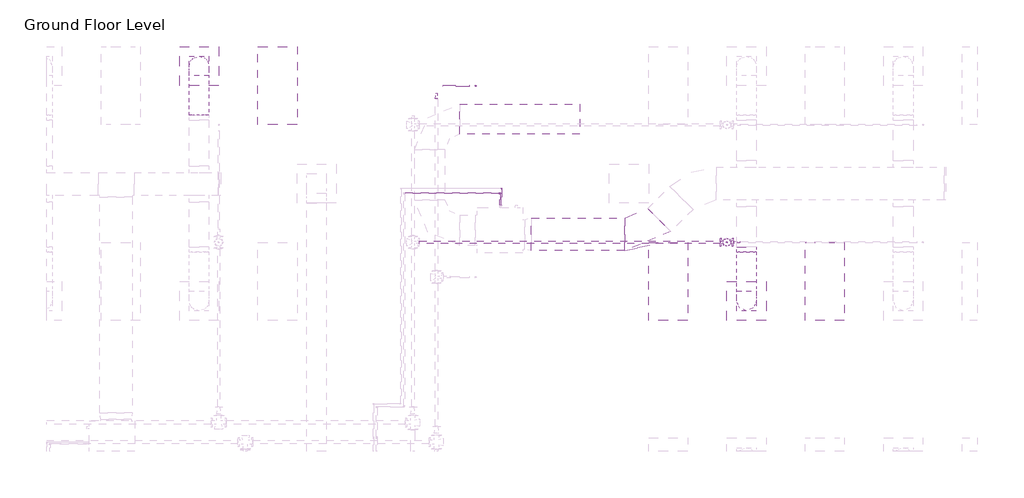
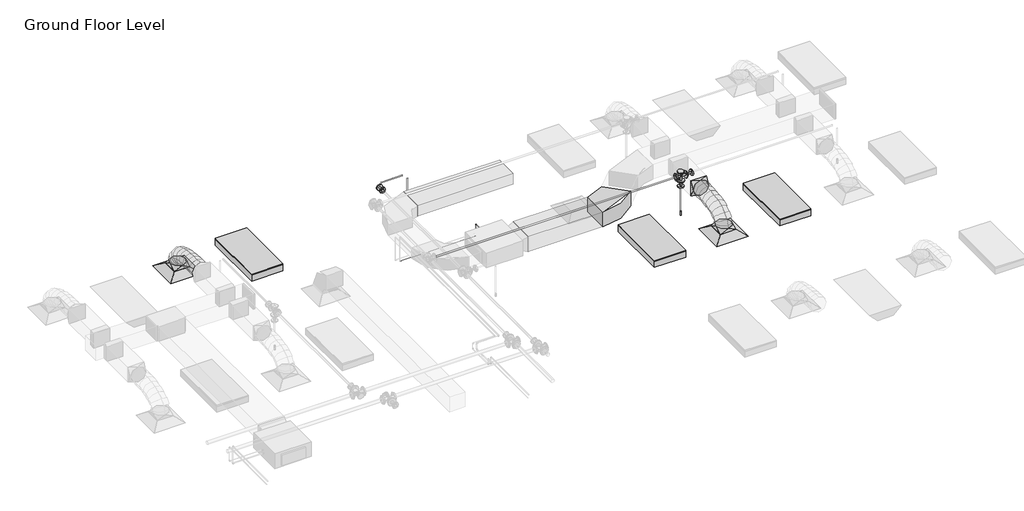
# One storey, part 72 of 74: 9 pipe segments, 8 pipe fittings, 4 duct fittings, 4 duct segments, 3 light fixtures, 2 air terminals, 2 fire suppression terminals.
"""IFC4 building model written with IfcOpenShell, lengths in millimetres."""

from ifc_helpers import new_model, si_unit, point, frame, frame_2d, origin, place, context, project, spatial, polyline, circle_curve, ellipse_curve, trimmed, segment, composite_curve, outline, extrude, transform, mapped, element, save
from ifc_brep_helpers import plane_surface, cylinder_surface, advanced_brep
from components import m_return_diffuser_600_x_600_face_300_x_300_connection_ff221211, m_rectangular_elbow_radius_1_5_w_acc56c25, m_rectangular_to_round_transition_angle_45_degree_641efff0, m_sprinkler_dry_pendent_hosted_15_mm_dry_pendent_9bda8e11, m_sprinkler_pendent_15_mm_pendent_06fcbd8e, m_troffer_light_parabolic_rectangular1_0600x1200mm_4_lamp_86473d4a, m_elbow_generic_standard_a088f956, m_elbow_generic_standard_2a704253, m_reducer_flanged_cs_class_150_standard_ccf252ad, m_tee_round_base_flanged_cs_class_150_standard_7e5987a1

model = new_model("IFC4")

# Units and contexts
model_context = context("Model", 3, world=origin())
ifc_project = project(units=[si_unit("LENGTHUNIT", "METRE", prefix="MILLI")], contexts=[model_context])

# Site, building, storey
site = spatial("IfcSite", under=ifc_project)
building = spatial("IfcBuilding", under=site)
storey = spatial("IfcBuildingStorey", under=building, Name="Ground Floor Level", Elevation=900.0)

# Air terminals
placement = place(None, origin())
m_return_diffuser_600_x_600_face_300_x_300_connection_shape = m_return_diffuser_600_x_600_face_300_x_300_connection_ff221211(model_context)
element("IfcAirTerminal", 1, ObjectType="M_Supply Diffuser : 600 x 600 Face 300 x 300 Connection", at=placement, inside=storey, context=model_context, shape_type="MappedRepresentation", body=[
    mapped(m_return_diffuser_600_x_600_face_300_x_300_connection_shape, transform((2362.7672395, 20535.2153534, 3650.0), x_axis=(1.0, 0.0, 0.0), y_axis=(0.0, 1.0, 0.0), z_axis=(0.0, 0.0, 1.0))),
])
element("IfcAirTerminal", 2, ObjectType="M_Supply Diffuser : 600 x 600 Face 300 x 300 Connection", at=placement, inside=storey, context=model_context, shape_type="MappedRepresentation", body=[
    mapped(m_return_diffuser_600_x_600_face_300_x_300_connection_shape, transform((10742.7672395, 16935.2153534, 3650.0), x_axis=(1.0, 0.0, 0.0), y_axis=(0.0, 1.0, 0.0), z_axis=(0.0, 0.0, 1.0))),
])

# Duct fittings
m_rectangular_elbow_radius_1_5_w_shape = m_rectangular_elbow_radius_1_5_w_acc56c25(model_context)
element("IfcDuctFitting", 3, ObjectType="M_Rectangular Elbow - Radius : 1.5 W", at=placement, inside=storey, context=model_context, shape_type="MappedRepresentation", body=[
    mapped(m_rectangular_elbow_radius_1_5_w_shape, transform((9187.6927358, 17956.1779527, 4100.0047224), x_axis=(0.9999999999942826, 0.0, -3.3815582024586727e-06), y_axis=(-9.063610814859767e-12, 0.9999999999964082, -2.680306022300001e-06), z_axis=(3.3815582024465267e-06, 2.6803060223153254e-06, 0.9999999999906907))),
])
m_rectangular_to_round_transition_angle_45_degree_shape = m_rectangular_to_round_transition_angle_45_degree_641efff0(model_context)
element("IfcDuctFitting", 4, ObjectType="M_Rectangular to Round Transition - Angle : 45 Degree", at=placement, inside=storey, context=model_context, shape_type="MappedRepresentation", body=[
    mapped(m_rectangular_to_round_transition_angle_45_degree_shape, transform((2362.7672395, 20535.2153534, 3751.6), x_axis=(0.0, 0.0, 1.0), y_axis=(-1.0, 0.0, 0.0), z_axis=(0.0, -1.0, 0.0))),
])
element("IfcDuctFitting", 5, ObjectType="M_Rectangular to Round Transition - Angle : 45 Degree", at=placement, inside=storey, context=model_context, shape_type="MappedRepresentation", body=[
    mapped(m_rectangular_to_round_transition_angle_45_degree_shape, transform((10742.7672395, 16935.2153534, 3751.6), x_axis=(0.0, 0.0, 1.0), y_axis=(-1.0, 0.0, 0.0), z_axis=(0.0, -1.0, 0.0))),
])
element("IfcDuctFitting", 6, ObjectType="M_Rectangular to Round Transition - Angle : 45 Degree", at=placement, inside=storey, context=model_context, shape_type="MappedRepresentation", body=[
    mapped(m_rectangular_to_round_transition_angle_45_degree_shape, transform((10742.7672395, 17762.5512847, 4100.0), x_axis=(0.0, -1.0, 0.0), y_axis=(1.0, 0.0, 0.0), z_axis=(0.0, 0.0, 1.0))),
])

# Duct segments
element("IfcDuctSegment", 7, ObjectType="Flex - Round", at=placement, inside=storey, context=model_context, shape_type="AdvancedBrep", body=[
    advanced_brep(
    [(2512.7672395, 20535.2153534, 3826.6), (2362.7672395, 20385.2153534, 3826.6), (2212.7672395, 20535.2153534, 3826.6), (2362.7672395, 20685.2153534, 3826.6), (2512.7672395, 20535.2153534, 3857.937778), (2362.7672395, 20385.2153534, 3832.2944744), (2212.7672395, 20535.2153534, 3857.937778), (2362.7672395, 20685.2153534, 3883.5810816), (2512.7672395, 20518.1993769, 3906.2506017), (2362.7672395, 20384.4614978, 3834.4348684), (2212.7672395, 20518.1993769, 3906.2506017), (2362.7672395, 20651.937256, 3978.0663351), (2512.7672395, 20471.0153769, 3968.7112406), (2362.7672395, 20366.8097489, 3857.8016772), (2212.7672395, 20471.0153769, 3968.7112406), (2362.7672395, 20575.2210049, 4079.6208039), (2512.7672395, 20399.4592477, 4016.0697935), (2362.7672395, 20330.5256195, 3881.8158865), (2212.7672395, 20399.4592477, 4016.0697935), (2362.7672395, 20468.3928758, 4150.3237004), (2512.7672395, 20309.3268835, 4050.4141374), (2362.7672395, 20265.7665876, 3906.4918893), (2212.7672395, 20309.3268835, 4050.4141374), (2362.7672395, 20352.8871794, 4194.3363855), (2512.7672395, 20206.4141786, 4073.8321493), (2362.7672395, 20179.8536975, 3926.0415559), (2212.7672395, 20206.4141786, 4073.8321493), (2362.7672395, 20232.9746597, 4221.6227426), (2512.7672395, 20096.5170273, 4088.411706), (2362.7672395, 20081.3665099, 3939.1074046), (2212.7672395, 20096.5170273, 4088.411706), (2362.7672395, 20111.6675446, 4237.7160075), (2512.7672395, 19985.4313238, 4096.2406846), (2362.7672395, 19977.9262951, 3946.3975526), (2212.7672395, 19985.4313238, 4096.2406846), (2362.7672395, 19992.9363525, 4246.0838166), (2512.7672395, 19878.9529624, 4099.406962), (2362.7672395, 19876.2616453, 3949.4206879), (2212.7672395, 19878.9529624, 4099.406962), (2362.7672395, 19881.6442795, 4249.3932362), (2512.7672395, 19782.8778373, 4099.9984152), (2362.7672395, 19783.8012427, 4249.9955729), (2212.7672395, 19782.8778373, 4099.9984152), (2362.7672395, 19781.9544319, 3950.0012575)],
    [
        (0, 1, circle_curve(frame((2362.7672395, 20535.2153534, 3826.6), z_axis=(0.0, 0.0, -1.0), x_axis=(1.0, 0.0, 0.0)), 150.0)),
        (1, 2, circle_curve(frame((2362.7672395, 20535.2153534, 3826.6), z_axis=(0.0, 0.0, -1.0), x_axis=(1.0, 0.0, 0.0)), 150.0)),
        (2, 3, circle_curve(frame((2362.7672395, 20535.2153534, 3826.6), z_axis=(0.0, 0.0, -1.0), x_axis=(1.0, 0.0, 0.0)), 150.0)),
        (3, 0, circle_curve(frame((2362.7672395, 20535.2153534, 3826.6), z_axis=(0.0, 0.0, -1.0), x_axis=(1.0, 0.0, 0.0)), 150.0)),
        (0, 4),
        (4, 5, ellipse_curve(frame((2362.7672395, 20535.2153534, 3857.937778), z_axis=(0.0, 0.16851066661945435, -0.985699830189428), x_axis=(0.0, -0.985699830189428, -0.16851066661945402)), 152.1761447, 150.0)),
        (5, 1),
        (5, 6, ellipse_curve(frame((2362.7672395, 20535.2153534, 3857.937778), z_axis=(0.0, 0.16851066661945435, -0.985699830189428), x_axis=(0.0, -0.985699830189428, -0.16851066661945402)), 152.1761447, 150.0)),
        (6, 2),
        (6, 7, ellipse_curve(frame((2362.7672395, 20535.2153534, 3857.937778), z_axis=(0.0, 0.16851066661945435, -0.985699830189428), x_axis=(0.0, -0.985699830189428, -0.16851066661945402)), 152.1761447, 150.0)),
        (7, 3),
        (7, 4, ellipse_curve(frame((2362.7672395, 20535.2153534, 3857.937778), z_axis=(0.0, 0.16851066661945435, -0.985699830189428), x_axis=(0.0, -0.985699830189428, -0.16851066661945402)), 152.1761447, 150.0)),
        (4, 8),
        (8, 9, ellipse_curve(frame((2362.7672395, 20518.1993769, 3906.2506017), z_axis=(0.0, 0.4730936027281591, -0.8810121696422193), x_axis=(0.0, -0.8810121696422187, -0.4730936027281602)), 151.8002631, 150.0)),
        (9, 5),
        (9, 10, ellipse_curve(frame((2362.7672395, 20518.1993769, 3906.2506017), z_axis=(0.0, 0.4730936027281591, -0.8810121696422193), x_axis=(0.0, -0.8810121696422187, -0.4730936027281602)), 151.8002631, 150.0)),
        (10, 6),
        (10, 11, ellipse_curve(frame((2362.7672395, 20518.1993769, 3906.2506017), z_axis=(0.0, 0.4730936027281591, -0.8810121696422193), x_axis=(0.0, -0.8810121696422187, -0.4730936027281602)), 151.8002631, 150.0)),
        (11, 7),
        (11, 8, ellipse_curve(frame((2362.7672395, 20518.1993769, 3906.2506017), z_axis=(0.0, 0.4730936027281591, -0.8810121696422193), x_axis=(0.0, -0.8810121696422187, -0.4730936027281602)), 151.8002631, 150.0)),
        (8, 12),
        (12, 13, ellipse_curve(frame((2362.7672395, 20471.0153769, 3968.7112406), z_axis=(0.0, 0.7287895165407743, -0.6847377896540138), x_axis=(0.0, -0.6847377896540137, -0.7287895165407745)), 152.1832584, 150.0)),
        (13, 9),
        (13, 14, ellipse_curve(frame((2362.7672395, 20471.0153769, 3968.7112406), z_axis=(0.0, 0.7287895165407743, -0.6847377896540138), x_axis=(0.0, -0.6847377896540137, -0.7287895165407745)), 152.1832584, 150.0)),
        (14, 10),
        (14, 15, ellipse_curve(frame((2362.7672395, 20471.0153769, 3968.7112406), z_axis=(0.0, 0.7287895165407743, -0.6847377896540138), x_axis=(0.0, -0.6847377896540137, -0.7287895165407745)), 152.1832584, 150.0)),
        (15, 11),
        (15, 12, ellipse_curve(frame((2362.7672395, 20471.0153769, 3968.7112406), z_axis=(0.0, 0.7287895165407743, -0.6847377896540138), x_axis=(0.0, -0.6847377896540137, -0.7287895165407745)), 152.1832584, 150.0)),
        (12, 16),
        (16, 17, ellipse_curve(frame((2362.7672395, 20399.4592477, 4016.0697935), z_axis=(0.0, 0.8895873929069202, -0.4567650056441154), x_axis=(0.0, -0.4567650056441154, -0.8895873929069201)), 150.9170521, 150.0)),
        (17, 13),
        (17, 18, ellipse_curve(frame((2362.7672395, 20399.4592477, 4016.0697935), z_axis=(0.0, 0.8895873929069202, -0.4567650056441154), x_axis=(0.0, -0.4567650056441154, -0.8895873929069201)), 150.9170521, 150.0)),
        (18, 14),
        (18, 19, ellipse_curve(frame((2362.7672395, 20399.4592477, 4016.0697935), z_axis=(0.0, 0.8895873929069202, -0.4567650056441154), x_axis=(0.0, -0.4567650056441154, -0.8895873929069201)), 150.9170521, 150.0)),
        (19, 15),
        (19, 16, ellipse_curve(frame((2362.7672395, 20399.4592477, 4016.0697935), z_axis=(0.0, 0.8895873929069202, -0.4567650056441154), x_axis=(0.0, -0.4567650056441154, -0.8895873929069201)), 150.9170521, 150.0)),
        (16, 20),
        (20, 21, ellipse_curve(frame((2362.7672395, 20309.3268835, 4050.4141374), z_axis=(0.0, 0.9571212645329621, -0.2896875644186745), x_axis=(0.0, -0.28968756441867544, -0.9571212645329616)), 150.3699202, 150.0)),
        (21, 17),
        (21, 22, ellipse_curve(frame((2362.7672395, 20309.3268835, 4050.4141374), z_axis=(0.0, 0.9571212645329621, -0.2896875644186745), x_axis=(0.0, -0.28968756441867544, -0.9571212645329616)), 150.3699202, 150.0)),
        (22, 18),
        (22, 23, ellipse_curve(frame((2362.7672395, 20309.3268835, 4050.4141374), z_axis=(0.0, 0.9571212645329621, -0.2896875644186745), x_axis=(0.0, -0.28968756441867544, -0.9571212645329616)), 150.3699202, 150.0)),
        (23, 19),
        (23, 20, ellipse_curve(frame((2362.7672395, 20309.3268835, 4050.4141374), z_axis=(0.0, 0.9571212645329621, -0.2896875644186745), x_axis=(0.0, -0.28968756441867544, -0.9571212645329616)), 150.3699202, 150.0)),
        (20, 24),
        (24, 25, ellipse_curve(frame((2362.7672395, 20206.4141786, 4073.8321493), z_axis=(0.0, 0.9842318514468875, -0.17688318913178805), x_axis=(0.0, -0.17688318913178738, -0.9842318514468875)), 150.1583119, 150.0)),
        (25, 21),
        (25, 26, ellipse_curve(frame((2362.7672395, 20206.4141786, 4073.8321493), z_axis=(0.0, 0.9842318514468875, -0.17688318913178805), x_axis=(0.0, -0.17688318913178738, -0.9842318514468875)), 150.1583119, 150.0)),
        (26, 22),
        (26, 27, ellipse_curve(frame((2362.7672395, 20206.4141786, 4073.8321493), z_axis=(0.0, 0.9842318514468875, -0.17688318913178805), x_axis=(0.0, -0.17688318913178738, -0.9842318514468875)), 150.1583119, 150.0)),
        (27, 23),
        (27, 24, ellipse_curve(frame((2362.7672395, 20206.4141786, 4073.8321493), z_axis=(0.0, 0.9842318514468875, -0.17688318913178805), x_axis=(0.0, -0.17688318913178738, -0.9842318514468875)), 150.1583119, 150.0)),
        (24, 28),
        (28, 29, ellipse_curve(frame((2362.7672395, 20096.5170273, 4088.411706), z_axis=(0.0, 0.9948909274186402, -0.10095564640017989), x_axis=(0.0, -0.10095564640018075, -0.99489092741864)), 150.0710252, 150.0)),
        (29, 25),
        (29, 30, ellipse_curve(frame((2362.7672395, 20096.5170273, 4088.411706), z_axis=(0.0, 0.9948909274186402, -0.10095564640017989), x_axis=(0.0, -0.10095564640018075, -0.99489092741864)), 150.0710252, 150.0)),
        (30, 26),
        (30, 31, ellipse_curve(frame((2362.7672395, 20096.5170273, 4088.411706), z_axis=(0.0, 0.9948909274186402, -0.10095564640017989), x_axis=(0.0, -0.10095564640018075, -0.99489092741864)), 150.0710252, 150.0)),
        (31, 27),
        (31, 28, ellipse_curve(frame((2362.7672395, 20096.5170273, 4088.411706), z_axis=(0.0, 0.9948909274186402, -0.10095564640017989), x_axis=(0.0, -0.10095564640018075, -0.99489092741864)), 150.0710252, 150.0)),
        (28, 32),
        (32, 33, ellipse_curve(frame((2362.7672395, 19985.4313238, 4096.2406846), z_axis=(0.0, 0.9987480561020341, -0.05002319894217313), x_axis=(0.0, -0.050023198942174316, -0.9987480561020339)), 150.0309623, 150.0)),
        (33, 29),
        (33, 34, ellipse_curve(frame((2362.7672395, 19985.4313238, 4096.2406846), z_axis=(0.0, 0.9987480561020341, -0.05002319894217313), x_axis=(0.0, -0.050023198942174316, -0.9987480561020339)), 150.0309623, 150.0)),
        (34, 30),
        (34, 35, ellipse_curve(frame((2362.7672395, 19985.4313238, 4096.2406846), z_axis=(0.0, 0.9987480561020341, -0.05002319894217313), x_axis=(0.0, -0.050023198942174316, -0.9987480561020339)), 150.0309623, 150.0)),
        (35, 31),
        (35, 32, ellipse_curve(frame((2362.7672395, 19985.4313238, 4096.2406846), z_axis=(0.0, 0.9987480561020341, -0.05002319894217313), x_axis=(0.0, -0.050023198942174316, -0.9987480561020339)), 150.0309623, 150.0)),
        (32, 36),
        (36, 37, ellipse_curve(frame((2362.7672395, 19878.9529624, 4099.406962), z_axis=(0.0, 0.99983904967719, -0.017940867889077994), x_axis=(0.0, -0.017940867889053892, -0.9998390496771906)), 150.0104184, 150.0)),
        (37, 33),
        (37, 38, ellipse_curve(frame((2362.7672395, 19878.9529624, 4099.406962), z_axis=(0.0, 0.99983904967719, -0.017940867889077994), x_axis=(0.0, -0.017940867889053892, -0.9998390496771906)), 150.0104184, 150.0)),
        (38, 34),
        (38, 39, ellipse_curve(frame((2362.7672395, 19878.9529624, 4099.406962), z_axis=(0.0, 0.99983904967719, -0.017940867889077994), x_axis=(0.0, -0.017940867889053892, -0.9998390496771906)), 150.0104184, 150.0)),
        (39, 35),
        (39, 36, ellipse_curve(frame((2362.7672395, 19878.9529624, 4099.406962), z_axis=(0.0, 0.99983904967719, -0.017940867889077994), x_axis=(0.0, -0.017940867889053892, -0.9998390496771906)), 150.0104184, 150.0)),
        (40, 41, circle_curve(frame((2362.7672395, 19782.8778373, 4099.9984152), z_axis=(0.0, -0.9999810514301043, 0.006156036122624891), x_axis=(1.0, 0.0, 0.0)), 150.0)),
        (41, 42, circle_curve(frame((2362.7672395, 19782.8778373, 4099.9984152), z_axis=(0.0, -0.9999810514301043, 0.006156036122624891), x_axis=(1.0, 0.0, 0.0)), 150.0)),
        (42, 43, circle_curve(frame((2362.7672395, 19782.8778373, 4099.9984152), z_axis=(0.0, -0.9999810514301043, 0.006156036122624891), x_axis=(1.0, 0.0, 0.0)), 150.0)),
        (43, 40, circle_curve(frame((2362.7672395, 19782.8778373, 4099.9984152), z_axis=(0.0, -0.9999810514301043, 0.006156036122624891), x_axis=(1.0, 0.0, 0.0)), 150.0)),
        (36, 40),
        (43, 37),
        (42, 38),
        (41, 39),
    ],
    [
        plane_surface(frame((2362.7672395, 20385.2153534, 3826.6), z_axis=(0.0, 0.0, -1.0), x_axis=(1.0, 0.0, 0.0))),
        cylinder_surface(frame((2362.7672395, 20535.2153534, 3826.6), z_axis=(0.0, 0.0, -1.0), x_axis=(1.0, 0.0, 0.0)), 150.0),
        cylinder_surface(frame((2362.7672395, 20535.2153534, 3857.937778), z_axis=(0.0, 0.3322018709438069, -0.9432083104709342), x_axis=(1.0, 0.0, 0.0)), 150.0),
        cylinder_surface(frame((2362.7672395, 20518.1993769, 3906.2506017), z_axis=(0.0, 0.6027641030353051, -0.7979194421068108), x_axis=(1.0, 0.0, 0.0)), 150.0),
        cylinder_surface(frame((2362.7672395, 20471.0153769, 3968.7112406), z_axis=(0.0, 0.8339041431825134, -0.5519093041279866), x_axis=(1.0, 0.0, 0.0)), 150.0),
        cylinder_surface(frame((2362.7672395, 20399.4592477, 4016.0697935), z_axis=(0.0, 0.9344594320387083, -0.3560696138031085), x_axis=(1.0, 0.0, 0.0)), 150.0),
        cylinder_surface(frame((2362.7672395, 20309.3268835, 4050.4141374), z_axis=(0.0, 0.9750739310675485, -0.22188021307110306), x_axis=(1.0, 0.0, 0.0)), 150.0),
        cylinder_surface(frame((2362.7672395, 20206.4141786, 4073.8321493), z_axis=(0.0, 0.9913144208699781, -0.13151318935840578), x_axis=(1.0, 0.0, 0.0)), 150.0),
        cylinder_surface(frame((2362.7672395, 20096.5170273, 4088.411706), z_axis=(0.0, 0.9975257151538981, -0.07030254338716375), x_axis=(1.0, 0.0, 0.0)), 150.0),
        cylinder_surface(frame((2362.7672395, 19985.4313238, 4096.2406846), z_axis=(0.0, 0.9995581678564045, -0.029723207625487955), x_axis=(1.0, 0.0, 0.0)), 150.0),
        plane_surface(frame((2362.7672395, 19781.9544319, 3950.0012575), z_axis=(0.0, -0.9999810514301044, 0.006156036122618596), x_axis=(1.0, 0.0, 0.0))),
        cylinder_surface(frame((2362.7672395, 19878.9529624, 4099.406962), z_axis=(0.0, 0.9999810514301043, -0.006156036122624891), x_axis=(1.0, 0.0, 0.0)), 150.0),
    ],
    [
        (0, [[1, 2, 3, 4]]),
        (1, [[-1, 5, 6, 7]]),
        (1, [[-2, -7, 8, 9]]),
        (1, [[-3, -9, 10, 11]]),
        (1, [[-4, -11, 12, -5]]),
        (2, [[-6, 13, 14, 15]]),
        (2, [[-8, -15, 16, 17]]),
        (2, [[-10, -17, 18, 19]]),
        (2, [[-12, -19, 20, -13]]),
        (3, [[-14, 21, 22, 23]]),
        (3, [[-16, -23, 24, 25]]),
        (3, [[-18, -25, 26, 27]]),
        (3, [[-20, -27, 28, -21]]),
        (4, [[-22, 29, 30, 31]]),
        (4, [[-24, -31, 32, 33]]),
        (4, [[-26, -33, 34, 35]]),
        (4, [[-28, -35, 36, -29]]),
        (5, [[-30, 37, 38, 39]]),
        (5, [[-32, -39, 40, 41]]),
        (5, [[-34, -41, 42, 43]]),
        (5, [[-36, -43, 44, -37]]),
        (6, [[-38, 45, 46, 47]]),
        (6, [[-40, -47, 48, 49]]),
        (6, [[-42, -49, 50, 51]]),
        (6, [[-44, -51, 52, -45]]),
        (7, [[-46, 53, 54, 55]]),
        (7, [[-48, -55, 56, 57]]),
        (7, [[-50, -57, 58, 59]]),
        (7, [[-52, -59, 60, -53]]),
        (8, [[-54, 61, 62, 63]]),
        (8, [[-56, -63, 64, 65]]),
        (8, [[-58, -65, 66, 67]]),
        (8, [[-60, -67, 68, -61]]),
        (9, [[-62, 69, 70, 71]]),
        (9, [[-64, -71, 72, 73]]),
        (9, [[-66, -73, 74, 75]]),
        (9, [[-68, -75, 76, -69]]),
        (10, [[77, 78, 79, 80]]),
        (11, [[-70, 81, -80, 82]]),
        (11, [[-72, -82, -79, 83]]),
        (11, [[-74, -83, -78, 84]]),
        (11, [[-76, -84, -77, -81]]),
    ],
),
])
element("IfcDuctSegment", 8, ObjectType="Flex - Round", at=placement, inside=storey, context=model_context, shape_type="AdvancedBrep", body=[
    advanced_brep(
    [(10892.7672395, 16935.2153534, 3826.6), (10742.7672395, 16785.2153534, 3826.6), (10592.7672395, 16935.2153534, 3826.6), (10742.7672395, 17085.2153534, 3826.6), (10892.7672395, 16935.2153534, 3857.9377114), (10742.7672395, 16785.2153534, 3883.5809337), (10592.7672395, 16935.2153534, 3857.9377114), (10742.7672395, 17085.2153534, 3832.2944892), (10892.7672395, 16952.2312859, 3906.2505728), (10742.7672395, 16818.493307, 3978.0660967), (10592.7672395, 16952.2312859, 3906.2505728), (10742.7672395, 17085.9692649, 3834.435049), (10892.7672395, 16999.4151663, 3968.7113131), (10742.7672395, 16895.209267, 4079.6206026), (10592.7672395, 16999.4151663, 3968.7113131), (10742.7672395, 17103.6210655, 3857.8020236), (10892.7672395, 17070.9711184, 4016.0700639), (10742.7672395, 17002.0370628, 4150.3237489), (10592.7672395, 17070.9711184, 4016.0700639), (10742.7672395, 17139.9051741, 3881.8163788), (10892.7672395, 17161.1032664, 4050.4146682), (10742.7672395, 17117.5425033, 4194.3367758), (10592.7672395, 17161.1032664, 4050.4146682), (10742.7672395, 17204.6640296, 3906.4925606), (10892.7672395, 17264.0157343, 4073.8329691), (10742.7672395, 17237.4548103, 4221.6234841), (10592.7672395, 17264.0157343, 4073.8329691), (10742.7672395, 17290.5766583, 3926.0424542), (10892.7672395, 17373.912646, 4088.4128097), (10742.7672395, 17358.7617437, 4237.7170733), (10592.7672395, 17373.912646, 4088.4128097), (10742.7672395, 17389.0635483, 3939.1085462), (10892.7672395, 17484.9981256, 4096.242033), (10742.7672395, 17477.4927975, 4246.085151), (10592.7672395, 17484.9981256, 4096.242033), (10742.7672395, 17492.5034538, 3946.398915), (10892.7672395, 17591.4762972, 4099.4084821), (10742.7672395, 17588.7848041, 4249.394754), (10592.7672395, 17591.4762972, 4099.4084821), (10742.7672395, 17594.1677903, 3949.4222102), (10892.7672395, 17687.5512847, 4100.0), (10742.7672395, 17688.4747925, 3950.0028429), (10592.7672395, 17687.5512847, 4100.0), (10742.7672395, 17686.6277768, 4249.9971571)],
    [
        (0, 1, circle_curve(frame((10742.7672395, 16935.2153534, 3826.6), z_axis=(0.0, 0.0, -1.0), x_axis=(1.0, 0.0, 0.0)), 150.0)),
        (1, 2, circle_curve(frame((10742.7672395, 16935.2153534, 3826.6), z_axis=(0.0, 0.0, -1.0), x_axis=(1.0, 0.0, 0.0)), 150.0)),
        (2, 3, circle_curve(frame((10742.7672395, 16935.2153534, 3826.6), z_axis=(0.0, 0.0, -1.0), x_axis=(1.0, 0.0, 0.0)), 150.0)),
        (3, 0, circle_curve(frame((10742.7672395, 16935.2153534, 3826.6), z_axis=(0.0, 0.0, -1.0), x_axis=(1.0, 0.0, 0.0)), 150.0)),
        (0, 4),
        (4, 5, ellipse_curve(frame((10742.7672395, 16935.2153534, 3857.9377114), z_axis=(0.0, -0.16851014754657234, -0.9856999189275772), x_axis=(0.0, 0.9856999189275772, -0.1685101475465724)), 152.176131, 150.0)),
        (5, 1),
        (5, 6, ellipse_curve(frame((10742.7672395, 16935.2153534, 3857.9377114), z_axis=(0.0, -0.16851014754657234, -0.9856999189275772), x_axis=(0.0, 0.9856999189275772, -0.1685101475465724)), 152.176131, 150.0)),
        (6, 2),
        (6, 7, ellipse_curve(frame((10742.7672395, 16935.2153534, 3857.9377114), z_axis=(0.0, -0.16851014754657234, -0.9856999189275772), x_axis=(0.0, 0.9856999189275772, -0.1685101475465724)), 152.176131, 150.0)),
        (7, 3),
        (7, 4, ellipse_curve(frame((10742.7672395, 16935.2153534, 3857.9377114), z_axis=(0.0, -0.16851014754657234, -0.9856999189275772), x_axis=(0.0, 0.9856999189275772, -0.1685101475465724)), 152.176131, 150.0)),
        (4, 8),
        (8, 9, ellipse_curve(frame((10742.7672395, 16952.2312859, 3906.2505728), z_axis=(0.0, -0.47309225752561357, -0.8810128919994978), x_axis=(0.0, 0.8810128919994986, -0.47309225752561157)), 151.8002519, 150.0)),
        (9, 5),
        (9, 10, ellipse_curve(frame((10742.7672395, 16952.2312859, 3906.2505728), z_axis=(0.0, -0.47309225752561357, -0.8810128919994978), x_axis=(0.0, 0.8810128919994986, -0.47309225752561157)), 151.8002519, 150.0)),
        (10, 6),
        (10, 11, ellipse_curve(frame((10742.7672395, 16952.2312859, 3906.2505728), z_axis=(0.0, -0.47309225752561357, -0.8810128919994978), x_axis=(0.0, 0.8810128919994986, -0.47309225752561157)), 151.8002519, 150.0)),
        (11, 7),
        (11, 8, ellipse_curve(frame((10742.7672395, 16952.2312859, 3906.2505728), z_axis=(0.0, -0.47309225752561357, -0.8810128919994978), x_axis=(0.0, 0.8810128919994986, -0.47309225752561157)), 151.8002519, 150.0)),
        (8, 12),
        (12, 13, ellipse_curve(frame((10742.7672395, 16999.4151663, 3968.7113131), z_axis=(0.0, -0.7287877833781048, -0.6847396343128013), x_axis=(0.0, 0.6847396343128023, -0.7287877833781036)), 152.1832446, 150.0)),
        (13, 9),
        (13, 14, ellipse_curve(frame((10742.7672395, 16999.4151663, 3968.7113131), z_axis=(0.0, -0.7287877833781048, -0.6847396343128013), x_axis=(0.0, 0.6847396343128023, -0.7287877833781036)), 152.1832446, 150.0)),
        (14, 10),
        (14, 15, ellipse_curve(frame((10742.7672395, 16999.4151663, 3968.7113131), z_axis=(0.0, -0.7287877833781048, -0.6847396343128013), x_axis=(0.0, 0.6847396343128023, -0.7287877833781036)), 152.1832446, 150.0)),
        (15, 11),
        (15, 12, ellipse_curve(frame((10742.7672395, 16999.4151663, 3968.7113131), z_axis=(0.0, -0.7287877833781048, -0.6847396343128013), x_axis=(0.0, 0.6847396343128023, -0.7287877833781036)), 152.1832446, 150.0)),
        (12, 16),
        (16, 17, ellipse_curve(frame((10742.7672395, 17070.9711184, 4016.0700639), z_axis=(0.0, -0.8895859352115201, -0.45676784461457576), x_axis=(0.0, 0.45676784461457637, -0.8895859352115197)), 150.91705, 150.0)),
        (17, 13),
        (17, 18, ellipse_curve(frame((10742.7672395, 17070.9711184, 4016.0700639), z_axis=(0.0, -0.8895859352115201, -0.45676784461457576), x_axis=(0.0, 0.45676784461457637, -0.8895859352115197)), 150.91705, 150.0)),
        (18, 14),
        (18, 19, ellipse_curve(frame((10742.7672395, 17070.9711184, 4016.0700639), z_axis=(0.0, -0.8895859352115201, -0.45676784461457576), x_axis=(0.0, 0.45676784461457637, -0.8895859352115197)), 150.91705, 150.0)),
        (19, 15),
        (19, 16, ellipse_curve(frame((10742.7672395, 17070.9711184, 4016.0700639), z_axis=(0.0, -0.8895859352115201, -0.45676784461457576), x_axis=(0.0, 0.45676784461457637, -0.8895859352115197)), 150.91705, 150.0)),
        (16, 20),
        (20, 21, ellipse_curve(frame((10742.7672395, 17161.1032664, 4050.4146682), z_axis=(0.0, -0.9571203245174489, -0.2896906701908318), x_axis=(0.0, 0.28969067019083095, -0.9571203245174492)), 150.369921, 150.0)),
        (21, 17),
        (21, 22, ellipse_curve(frame((10742.7672395, 17161.1032664, 4050.4146682), z_axis=(0.0, -0.9571203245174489, -0.2896906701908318), x_axis=(0.0, 0.28969067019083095, -0.9571203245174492)), 150.369921, 150.0)),
        (22, 18),
        (22, 23, ellipse_curve(frame((10742.7672395, 17161.1032664, 4050.4146682), z_axis=(0.0, -0.9571203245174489, -0.2896906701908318), x_axis=(0.0, 0.28969067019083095, -0.9571203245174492)), 150.369921, 150.0)),
        (23, 19),
        (23, 20, ellipse_curve(frame((10742.7672395, 17161.1032664, 4050.4146682), z_axis=(0.0, -0.9571203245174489, -0.2896906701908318), x_axis=(0.0, 0.28969067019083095, -0.9571203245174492)), 150.369921, 150.0)),
        (20, 24),
        (24, 25, ellipse_curve(frame((10742.7672395, 17264.0157343, 4073.8329691), z_axis=(0.0, -0.9842313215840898, -0.17688613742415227), x_axis=(0.0, 0.17688613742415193, -0.9842313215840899)), 150.1583131, 150.0)),
        (25, 21),
        (25, 26, ellipse_curve(frame((10742.7672395, 17264.0157343, 4073.8329691), z_axis=(0.0, -0.9842313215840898, -0.17688613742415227), x_axis=(0.0, 0.17688613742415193, -0.9842313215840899)), 150.1583131, 150.0)),
        (26, 22),
        (26, 27, ellipse_curve(frame((10742.7672395, 17264.0157343, 4073.8329691), z_axis=(0.0, -0.9842313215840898, -0.17688613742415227), x_axis=(0.0, 0.17688613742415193, -0.9842313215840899)), 150.1583131, 150.0)),
        (27, 23),
        (27, 24, ellipse_curve(frame((10742.7672395, 17264.0157343, 4073.8329691), z_axis=(0.0, -0.9842313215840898, -0.17688613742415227), x_axis=(0.0, 0.17688613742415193, -0.9842313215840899)), 150.1583131, 150.0)),
        (24, 28),
        (28, 29, ellipse_curve(frame((10742.7672395, 17373.912646, 4088.4128097), z_axis=(0.0, -0.9948906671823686, -0.1009582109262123), x_axis=(0.0, 0.10095821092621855, -0.994890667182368)), 150.0710264, 150.0)),
        (29, 25),
        (29, 30, ellipse_curve(frame((10742.7672395, 17373.912646, 4088.4128097), z_axis=(0.0, -0.9948906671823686, -0.1009582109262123), x_axis=(0.0, 0.10095821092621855, -0.994890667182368)), 150.0710264, 150.0)),
        (30, 26),
        (30, 31, ellipse_curve(frame((10742.7672395, 17373.912646, 4088.4128097), z_axis=(0.0, -0.9948906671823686, -0.1009582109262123), x_axis=(0.0, 0.10095821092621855, -0.994890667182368)), 150.0710264, 150.0)),
        (31, 27),
        (31, 28, ellipse_curve(frame((10742.7672395, 17373.912646, 4088.4128097), z_axis=(0.0, -0.9948906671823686, -0.1009582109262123), x_axis=(0.0, 0.10095821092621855, -0.994890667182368)), 150.0710264, 150.0)),
        (28, 32),
        (32, 33, ellipse_curve(frame((10742.7672395, 17484.9981256, 4096.242033), z_axis=(0.0, -0.9987479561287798, -0.05002519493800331), x_axis=(0.0, 0.05002519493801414, -0.9987479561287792)), 150.0309634, 150.0)),
        (33, 29),
        (33, 34, ellipse_curve(frame((10742.7672395, 17484.9981256, 4096.242033), z_axis=(0.0, -0.9987479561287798, -0.05002519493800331), x_axis=(0.0, 0.05002519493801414, -0.9987479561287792)), 150.0309634, 150.0)),
        (34, 30),
        (34, 35, ellipse_curve(frame((10742.7672395, 17484.9981256, 4096.242033), z_axis=(0.0, -0.9987479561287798, -0.05002519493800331), x_axis=(0.0, 0.05002519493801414, -0.9987479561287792)), 150.0309634, 150.0)),
        (35, 31),
        (35, 32, ellipse_curve(frame((10742.7672395, 17484.9981256, 4096.242033), z_axis=(0.0, -0.9987479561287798, -0.05002519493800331), x_axis=(0.0, 0.05002519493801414, -0.9987479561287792)), 150.0309634, 150.0)),
        (32, 36),
        (36, 37, ellipse_curve(frame((10742.7672395, 17591.4762972, 4099.4084821), z_axis=(0.0, -0.9998390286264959, -0.017942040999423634), x_axis=(0.0, 0.017942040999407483, -0.9998390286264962)), 150.0104193, 150.0)),
        (37, 33),
        (37, 38, ellipse_curve(frame((10742.7672395, 17591.4762972, 4099.4084821), z_axis=(0.0, -0.9998390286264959, -0.017942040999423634), x_axis=(0.0, 0.017942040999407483, -0.9998390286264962)), 150.0104193, 150.0)),
        (38, 34),
        (38, 39, ellipse_curve(frame((10742.7672395, 17591.4762972, 4099.4084821), z_axis=(0.0, -0.9998390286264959, -0.017942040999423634), x_axis=(0.0, 0.017942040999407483, -0.9998390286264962)), 150.0104193, 150.0)),
        (39, 35),
        (39, 36, ellipse_curve(frame((10742.7672395, 17591.4762972, 4099.4084821), z_axis=(0.0, -0.9998390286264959, -0.017942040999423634), x_axis=(0.0, 0.017942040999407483, -0.9998390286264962)), 150.0104193, 150.0)),
        (40, 41, circle_curve(frame((10742.7672395, 17687.5512847, 4100.0), z_axis=(0.0, 0.9999810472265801, 0.006156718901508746), x_axis=(1.0, 0.0, 0.0)), 150.0)),
        (41, 42, circle_curve(frame((10742.7672395, 17687.5512847, 4100.0), z_axis=(0.0, 0.9999810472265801, 0.006156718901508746), x_axis=(1.0, 0.0, 0.0)), 150.0)),
        (42, 43, circle_curve(frame((10742.7672395, 17687.5512847, 4100.0), z_axis=(0.0, 0.9999810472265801, 0.006156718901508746), x_axis=(1.0, 0.0, 0.0)), 150.0)),
        (43, 40, circle_curve(frame((10742.7672395, 17687.5512847, 4100.0), z_axis=(0.0, 0.9999810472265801, 0.006156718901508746), x_axis=(1.0, 0.0, 0.0)), 150.0)),
        (36, 40),
        (43, 37),
        (42, 38),
        (41, 39),
    ],
    [
        plane_surface(frame((10742.7672395, 16785.2153534, 3826.6), z_axis=(0.0, 0.0, -1.0), x_axis=(1.0, 0.0, 0.0))),
        cylinder_surface(frame((10742.7672395, 16935.2153534, 3826.6), z_axis=(0.0, 0.0, -1.0), x_axis=(1.0, 0.0, 0.0)), 150.0),
        cylinder_surface(frame((10742.7672395, 16935.2153534, 3857.9377114), z_axis=(0.0, -0.3322008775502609, -0.9432086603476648), x_axis=(1.0, 0.0, 0.0)), 150.0),
        cylinder_surface(frame((10742.7672395, 16952.2312859, 3906.2505728), z_axis=(0.0, -0.6027625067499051, -0.7979206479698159), x_axis=(1.0, 0.0, 0.0)), 150.0),
        cylinder_surface(frame((10742.7672395, 16999.4151663, 3968.7113131), z_axis=(0.0, -0.833902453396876, -0.5519118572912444), x_axis=(1.0, 0.0, 0.0)), 150.0),
        cylinder_surface(frame((10742.7672395, 17070.9711184, 4016.0700639), z_axis=(0.0, -0.9344582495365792, -0.35607271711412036), x_axis=(1.0, 0.0, 0.0)), 150.0),
        cylinder_surface(frame((10742.7672395, 17161.1032664, 4050.4146682), z_axis=(0.0, -0.9750732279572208, -0.22188330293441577), x_axis=(1.0, 0.0, 0.0)), 150.0),
        cylinder_surface(frame((10742.7672395, 17264.0157343, 4073.8329691), z_axis=(0.0, -0.9913140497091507, -0.13151598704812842), x_axis=(1.0, 0.0, 0.0)), 150.0),
        cylinder_surface(frame((10742.7672395, 17373.912646, 4088.4128097), z_axis=(0.0, -0.9975255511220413, -0.07030487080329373), x_axis=(1.0, 0.0, 0.0)), 150.0),
        cylinder_surface(frame((10742.7672395, 17484.9981256, 4096.242033), z_axis=(0.0, -0.9995581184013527, -0.02972487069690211), x_axis=(1.0, 0.0, 0.0)), 150.0),
        plane_surface(frame((10742.7672395, 17686.6277768, 4249.9971571), z_axis=(0.0, 0.9999810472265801, 0.0061567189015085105), x_axis=(1.0, 0.0, 0.0))),
        cylinder_surface(frame((10742.7672395, 17591.4762972, 4099.4084821), z_axis=(0.0, -0.9999810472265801, -0.006156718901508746), x_axis=(1.0, 0.0, 0.0)), 150.0),
    ],
    [
        (0, [[1, 2, 3, 4]]),
        (1, [[-1, 5, 6, 7]]),
        (1, [[-2, -7, 8, 9]]),
        (1, [[-3, -9, 10, 11]]),
        (1, [[-4, -11, 12, -5]]),
        (2, [[-6, 13, 14, 15]]),
        (2, [[-8, -15, 16, 17]]),
        (2, [[-10, -17, 18, 19]]),
        (2, [[-12, -19, 20, -13]]),
        (3, [[-14, 21, 22, 23]]),
        (3, [[-16, -23, 24, 25]]),
        (3, [[-18, -25, 26, 27]]),
        (3, [[-20, -27, 28, -21]]),
        (4, [[-22, 29, 30, 31]]),
        (4, [[-24, -31, 32, 33]]),
        (4, [[-26, -33, 34, 35]]),
        (4, [[-28, -35, 36, -29]]),
        (5, [[-30, 37, 38, 39]]),
        (5, [[-32, -39, 40, 41]]),
        (5, [[-34, -41, 42, 43]]),
        (5, [[-36, -43, 44, -37]]),
        (6, [[-38, 45, 46, 47]]),
        (6, [[-40, -47, 48, 49]]),
        (6, [[-42, -49, 50, 51]]),
        (6, [[-44, -51, 52, -45]]),
        (7, [[-46, 53, 54, 55]]),
        (7, [[-48, -55, 56, 57]]),
        (7, [[-50, -57, 58, 59]]),
        (7, [[-52, -59, 60, -53]]),
        (8, [[-54, 61, 62, 63]]),
        (8, [[-56, -63, 64, 65]]),
        (8, [[-58, -65, 66, 67]]),
        (8, [[-60, -67, 68, -61]]),
        (9, [[-62, 69, 70, 71]]),
        (9, [[-64, -71, 72, 73]]),
        (9, [[-66, -73, 74, 75]]),
        (9, [[-68, -75, 76, -69]]),
        (10, [[77, 78, 79, 80]]),
        (11, [[-70, 81, -80, 82]]),
        (11, [[-72, -82, -79, 83]]),
        (11, [[-74, -83, -78, 84]]),
        (11, [[-76, -84, -77, -81]]),
    ],
),
])
element("IfcDuctSegment", 9, ObjectType="Radius Elbows / Taps", at=placement, inside=storey, context=model_context, shape_type="SweptSolid", body=[
    extrude(outline(polyline([(7447.693178, 17706.1779527), (7447.693178, 18206.1779527), (8877.032564, 18206.1779527), (8877.032564, 17706.1779527), (7447.693178, 17706.1779527)])), frame((0.0, 0.0, 3950.0057729), z_axis=(0.0, 0.0, 1.0), x_axis=(1.0, 0.0, 0.0)), (0.0, 0.0, 1.0), 300.0),
])
element("IfcDuctSegment", 10, ObjectType="Radius Elbows / Taps", at=placement, inside=storey, context=model_context, shape_type="SweptSolid", body=[
    extrude(outline(polyline([(6355.2889492, 19488.7408949), (6355.2889492, 19950.6158949), (8193.4139492, 19950.6158949), (8193.4139492, 19488.7408949), (6355.2889492, 19488.7408949)])), frame((0.0, 0.0, 3968.1432729), z_axis=(0.0, 0.0, 1.0), x_axis=(1.0, 0.0, 0.0)), (0.0, 0.0, 1.0), 214.3),
])

# Fire suppression terminals
m_sprinkler_dry_pendent_hosted_15_mm_dry_pendent_shape = m_sprinkler_dry_pendent_hosted_15_mm_dry_pendent_9bda8e11(model_context)
element("IfcFireSuppressionTerminal", 11, ObjectType="M_Sprinkler - Dry - Pendent - Hosted : 15 mm Dry Pendent", at=placement, inside=storey, context=model_context, shape_type="MappedRepresentation", body=[
    mapped(m_sprinkler_dry_pendent_hosted_15_mm_dry_pendent_shape, transform((10442.7672395, 17835.2153534, 3650.0), x_axis=(1.0, 0.0, 0.0), y_axis=(0.0, -1.0, 0.0), z_axis=(0.0, 0.0, -1.0))),
])
m_sprinkler_pendent_15_mm_pendent_shape = m_sprinkler_pendent_15_mm_pendent_06fcbd8e(model_context)
element("IfcFireSuppressionTerminal", 12, ObjectType="M_Sprinkler - Pendent : 15 mm Pendent", at=placement, inside=storey, context=model_context, shape_type="MappedRepresentation", body=[
    mapped(m_sprinkler_pendent_15_mm_pendent_shape, transform((6592.5481019, 20231.639515, 3650.0), x_axis=(1.0, 0.0, 0.0), y_axis=(0.0, 1.0, 0.0), z_axis=(0.0, 0.0, 1.0))),
])

# Light fixtures
m_troffer_light_parabolic_rectangular1_0600x1200mm_4_lamp_shape = m_troffer_light_parabolic_rectangular1_0600x1200mm_4_lamp_86473d4a(model_context)
element("IfcLightFixture", 13, ObjectType="M_Troffer Light - Parabolic Rectangular1 : 0600x1200mm(4 Lamp) - 277V 2", at=placement, inside=storey, context=model_context, shape_type="MappedRepresentation", body=[
    mapped(m_troffer_light_parabolic_rectangular1_0600x1200mm_4_lamp_shape, transform((3503.3013074, 20253.918855, 3650.0), x_axis=(0.0, 1.0, 0.0), y_axis=(-1.0, 0.0, 0.0), z_axis=(0.0, 0.0, 1.0))),
])
element("IfcLightFixture", 14, ObjectType="M_Troffer Light - Parabolic Rectangular1 : 0600x1200mm(4 Lamp) - 277V 2", at=placement, inside=storey, context=model_context, shape_type="MappedRepresentation", body=[
    mapped(m_troffer_light_parabolic_rectangular1_0600x1200mm_4_lamp_shape, transform((9483.3013074, 17253.918855, 3650.0), x_axis=(0.0, 1.0, 0.0), y_axis=(-1.0, 0.0, 0.0), z_axis=(0.0, 0.0, 1.0))),
])
element("IfcLightFixture", 15, ObjectType="M_Troffer Light - Parabolic Rectangular1 : 0600x1200mm(4 Lamp) - 277V 2", at=placement, inside=storey, context=model_context, shape_type="MappedRepresentation", body=[
    mapped(m_troffer_light_parabolic_rectangular1_0600x1200mm_4_lamp_shape, transform((11883.3013074, 17253.918855, 3650.0), x_axis=(0.0, 1.0, 0.0), y_axis=(-1.0, 0.0, 0.0), z_axis=(0.0, 0.0, 1.0))),
])

# Pipe fittings
m_elbow_generic_standard_shape = m_elbow_generic_standard_a088f956(model_context)
element("IfcPipeFitting", 16, ObjectType="M_Elbow - Generic : Standard", at=placement, inside=storey, context=model_context, shape_type="MappedRepresentation", body=[
    mapped(m_elbow_generic_standard_shape, transform((6968.8139492, 18590.9278534, 4034.0932729), x_axis=(0.0, 1.0, 0.0), y_axis=(0.0, 0.0, -1.0), z_axis=(-1.0, 0.0, 0.0))),
])
element("IfcPipeFitting", 17, ObjectType="M_Elbow - Generic : Standard", at=placement, inside=storey, context=model_context, shape_type="MappedRepresentation", body=[
    mapped(m_elbow_generic_standard_shape, transform((6968.8139492, 18590.9278534, 3900.0), x_axis=(0.0, 0.0, -1.0), y_axis=(-1.0, 0.0, 0.0), z_axis=(0.0, 1.0, 0.0))),
])
m_elbow_generic_standard_2_shape = m_elbow_generic_standard_2a704253(model_context)
element("IfcPipeFitting", 18, ObjectType="M_Elbow - Generic : Standard", at=placement, inside=storey, context=model_context, shape_type="MappedRepresentation", body=[
    mapped(m_elbow_generic_standard_2_shape, transform((6993.8139492, 18659.0778534, 4084.8932729), x_axis=(0.0, 1.0, 0.0), y_axis=(0.0, 0.0, -1.0), z_axis=(-1.0, 0.0, 0.0))),
])
element("IfcPipeFitting", 19, ObjectType="M_Elbow - Generic : Standard", at=placement, inside=storey, context=model_context, shape_type="MappedRepresentation", body=[
    mapped(m_elbow_generic_standard_2_shape, transform((6993.8139492, 18659.0778536, 3900.0), x_axis=(0.0, 0.0, -1.0), y_axis=(-1.0, 0.0, 0.0), z_axis=(0.0, 1.0, 0.0))),
])
m_reducer_flanged_cs_class_150_standard_shape = m_reducer_flanged_cs_class_150_standard_ccf252ad(model_context)
element("IfcPipeFitting", 20, ObjectType="M_Reducer - Flanged - CS - Class 150 : Standard", at=placement, inside=storey, context=model_context, shape_type="MappedRepresentation", body=[
    mapped(m_reducer_flanged_cs_class_150_standard_shape, transform((5997.057812, 20024.6309212, 4291.0943441), x_axis=(0.0, 1.0, 0.0), y_axis=(-1.0, 0.0, 0.0), z_axis=(0.0, 0.0, 1.0))),
])
element("IfcPipeFitting", 21, ObjectType="M_Reducer - Flanged - CS - Class 150 : Standard", at=placement, inside=storey, context=model_context, shape_type="MappedRepresentation", body=[
    mapped(m_reducer_flanged_cs_class_150_standard_shape, transform((10543.4758332, 17835.2153534, 4360.0), x_axis=(1.0, 0.0, 0.0), y_axis=(0.0, 0.0, 1.0), z_axis=(0.0, -1.0, 0.0))),
])
element("IfcPipeFitting", 22, ObjectType="M_Reducer - Flanged - CS - Class 150 : Standard", at=placement, inside=storey, context=model_context, shape_type="MappedRepresentation", body=[
    mapped(m_reducer_flanged_cs_class_150_standard_shape, transform((10442.7672395, 17835.2153534, 4259.2914062), x_axis=(0.0, 0.0, -1.0), y_axis=(-1.0, 0.0, 0.0), z_axis=(0.0, 1.0, 0.0))),
])
m_tee_round_base_flanged_cs_class_150_standard_shape = m_tee_round_base_flanged_cs_class_150_standard_7e5987a1(model_context)
element("IfcPipeFitting", 23, ObjectType="M_Tee Round Base - Flanged - CS - Class 150 : Standard", at=placement, inside=storey, context=model_context, shape_type="MappedRepresentation", body=[
    mapped(m_tee_round_base_flanged_cs_class_150_standard_shape, transform((10442.7672395, 17835.2153534, 4360.0), x_axis=(1.0, 0.0, 0.0), y_axis=(0.0, 0.0, 1.0), z_axis=(0.0, -1.0, 0.0))),
])

# Pipe segments
element("IfcPipeSegment", 24, ObjectType="Copper", at=placement, inside=storey, context=model_context, shape_type="SweptSolid", body=[
    extrude(outline(composite_curve([segment(trimmed(circle_curve(frame_2d((18590.9278534, 3900.0)), 6.5), [point((18597.4278534, 3900.0))], [point((18590.9278534, 3893.5))], False, "CARTESIAN"), True, "CONTINUOUS"), segment(trimmed(circle_curve(frame_2d((18590.9278534, 3900.0)), 6.5), [point((18590.9278534, 3893.5))], [point((18584.4278534, 3900.0))], False, "CARTESIAN"), True, "CONTINUOUS"), segment(trimmed(circle_curve(frame_2d((18590.9278534, 3900.0)), 6.5), [point((18584.4278534, 3900.0))], [point((18590.9278534, 3906.5))], False, "CARTESIAN"), True, "CONTINUOUS"), segment(trimmed(circle_curve(frame_2d((18590.9278534, 3900.0)), 6.5), [point((18590.9278534, 3906.5))], [point((18597.4278534, 3900.0))], False, "CARTESIAN"), True, "CONTINUOUS")], self_intersect=False)), frame((5516.0550988, 0.0, 0.0), z_axis=(1.0, 0.0, 0.0), x_axis=(0.0, 1.0, 0.0)), (0.0, 0.0, 1.0), 1438.4713505),
])
element("IfcPipeSegment", 25, ObjectType="Copper", at=placement, inside=storey, context=model_context, shape_type="SweptSolid", body=[
    extrude(outline(composite_curve([segment(trimmed(circle_curve(frame_2d((4034.0932729, 6968.8139492)), 6.5), [point((4034.0932729, 6975.3139492))], [point((4040.5932729, 6968.8139492))], False, "CARTESIAN"), True, "CONTINUOUS"), segment(trimmed(circle_curve(frame_2d((4034.0932729, 6968.8139492)), 6.5), [point((4040.5932729, 6968.8139492))], [point((4034.0932729, 6962.3139492))], False, "CARTESIAN"), True, "CONTINUOUS"), segment(trimmed(circle_curve(frame_2d((4034.0932729, 6968.8139492)), 6.5), [point((4034.0932729, 6962.3139492))], [point((4027.5932729, 6968.8139492))], False, "CARTESIAN"), True, "CONTINUOUS"), segment(trimmed(circle_curve(frame_2d((4034.0932729, 6968.8139492)), 6.5), [point((4027.5932729, 6968.8139492))], [point((4034.0932729, 6975.3139492))], False, "CARTESIAN"), True, "CONTINUOUS")], self_intersect=False)), frame((0.0, 18407.7779527, 0.0), z_axis=(0.0, 1.0, 0.0), x_axis=(0.0, 0.0, 1.0)), (0.0, 0.0, 1.0), 168.8624007),
])
element("IfcPipeSegment", 26, ObjectType="Copper", at=placement, inside=storey, context=model_context, shape_type="SweptSolid", body=[
    extrude(outline(composite_curve([segment(trimmed(circle_curve(frame_2d((4084.8932729, 6993.8139492)), 3.35), [point((4084.8932729, 6997.1639492))], [point((4088.2432729, 6993.8139492))], False, "CARTESIAN"), True, "CONTINUOUS"), segment(trimmed(circle_curve(frame_2d((4084.8932729, 6993.8139492)), 3.35), [point((4088.2432729, 6993.8139492))], [point((4084.8932729, 6990.4639492))], False, "CARTESIAN"), True, "CONTINUOUS"), segment(trimmed(circle_curve(frame_2d((4084.8932729, 6993.8139492)), 3.35), [point((4084.8932729, 6990.4639492))], [point((4081.5432729, 6993.8139492))], False, "CARTESIAN"), True, "CONTINUOUS"), segment(trimmed(circle_curve(frame_2d((4084.8932729, 6993.8139492)), 3.35), [point((4081.5432729, 6993.8139492))], [point((4084.8932729, 6997.1639492))], False, "CARTESIAN"), True, "CONTINUOUS")], self_intersect=False)), frame((0.0, 18407.7779527, 0.0), z_axis=(0.0, 1.0, 0.0), x_axis=(0.0, 0.0, 1.0)), (0.0, 0.0, 1.0), 240.1624007),
])
element("IfcPipeSegment", 27, ObjectType="Copper", at=placement, inside=storey, context=model_context, shape_type="SweptSolid", body=[
    extrude(outline(composite_curve([segment(trimmed(circle_curve(frame_2d((6968.8139492, 18590.9278534)), 6.5), [point((6975.3139492, 18590.9278534))], [point((6968.8139492, 18584.4278534))], False, "CARTESIAN"), True, "CONTINUOUS"), segment(trimmed(circle_curve(frame_2d((6968.8139492, 18590.9278534)), 6.5), [point((6968.8139492, 18584.4278534))], [point((6962.3139492, 18590.9278534))], False, "CARTESIAN"), True, "CONTINUOUS"), segment(trimmed(circle_curve(frame_2d((6968.8139492, 18590.9278534)), 6.5), [point((6962.3139492, 18590.9278534))], [point((6968.8139492, 18597.4278534))], False, "CARTESIAN"), True, "CONTINUOUS"), segment(trimmed(circle_curve(frame_2d((6968.8139492, 18590.9278534)), 6.5), [point((6968.8139492, 18597.4278534))], [point((6975.3139492, 18590.9278534))], False, "CARTESIAN"), True, "CONTINUOUS")], self_intersect=False)), frame((0.0, 0.0, 3914.2875), z_axis=(0.0, 0.0, 1.0), x_axis=(1.0, 0.0, 0.0)), (0.0, 0.0, 1.0), 105.5182729),
])
element("IfcPipeSegment", 28, ObjectType="Copper", at=placement, inside=storey, context=model_context, shape_type="SweptSolid", body=[
    extrude(outline(composite_curve([segment(trimmed(circle_curve(frame_2d((6993.8139492, 18659.0778534)), 3.35), [point((6997.1639492, 18659.0778534))], [point((6993.8139492, 18655.7278534))], False, "CARTESIAN"), True, "CONTINUOUS"), segment(trimmed(circle_curve(frame_2d((6993.8139492, 18659.0778534)), 3.35), [point((6993.8139492, 18655.7278534))], [point((6990.4639492, 18659.0778534))], False, "CARTESIAN"), True, "CONTINUOUS"), segment(trimmed(circle_curve(frame_2d((6993.8139492, 18659.0778534)), 3.35), [point((6990.4639492, 18659.0778534))], [point((6993.8139492, 18662.4278534))], False, "CARTESIAN"), True, "CONTINUOUS"), segment(trimmed(circle_curve(frame_2d((6993.8139492, 18659.0778534)), 3.35), [point((6993.8139492, 18662.4278534))], [point((6997.1639492, 18659.0778534))], False, "CARTESIAN"), True, "CONTINUOUS")], self_intersect=False)), frame((0.0, 0.0, 3911.1375), z_axis=(0.0, 0.0, 1.0), x_axis=(1.0, 0.0, 0.0)), (0.0, 0.0, 1.0), 162.6182729),
])
element("IfcPipeSegment", 29, ObjectType="Steel flanged", at=placement, inside=storey, context=model_context, shape_type="SweptSolid", body=[
    extrude(outline(composite_curve([segment(trimmed(circle_curve(frame_2d((6592.5481019, 20231.639515)), 10.668), [point((6581.8801019, 20231.639515))], [point((6592.5481019, 20242.307515))], False, "CARTESIAN"), True, "CONTINUOUS"), segment(trimmed(circle_curve(frame_2d((6592.5481019, 20231.639515)), 10.668), [point((6592.5481019, 20242.307515))], [point((6603.2161019, 20231.639515))], False, "CARTESIAN"), True, "CONTINUOUS"), segment(trimmed(circle_curve(frame_2d((6592.5481019, 20231.639515)), 10.668), [point((6603.2161019, 20231.639515))], [point((6592.5481019, 20220.971515))], False, "CARTESIAN"), True, "CONTINUOUS"), segment(trimmed(circle_curve(frame_2d((6592.5481019, 20231.639515)), 10.668), [point((6592.5481019, 20220.971515))], [point((6581.8801019, 20231.639515))], False, "CARTESIAN"), True, "CONTINUOUS")], self_intersect=False)), frame((0.0, 0.0, 3650.0), z_axis=(0.0, 0.0, 1.0), x_axis=(1.0, 0.0, 0.0)), (0.0, 0.0, 1.0), 548.2668816),
])
element("IfcPipeSegment", 30, ObjectType="Steel flanged", at=placement, inside=storey, context=model_context, shape_type="SweptSolid", body=[
    extrude(outline(composite_curve([segment(trimmed(circle_curve(frame_2d((20231.639515, 4291.2754753)), 10.668), [point((20242.307515, 4291.2754753))], [point((20231.639515, 4280.6074753))], False, "CARTESIAN"), True, "CONTINUOUS"), segment(trimmed(circle_curve(frame_2d((20231.639515, 4291.2754753)), 10.668), [point((20231.639515, 4280.6074753))], [point((20220.971515, 4291.2754753))], False, "CARTESIAN"), True, "CONTINUOUS"), segment(trimmed(circle_curve(frame_2d((20231.639515, 4291.2754753)), 10.668), [point((20220.971515, 4291.2754753))], [point((20231.639515, 4301.9434753))], False, "CARTESIAN"), True, "CONTINUOUS"), segment(trimmed(circle_curve(frame_2d((20231.639515, 4291.2754753)), 10.668), [point((20231.639515, 4301.9434753))], [point((20242.307515, 4291.2754753))], False, "CARTESIAN"), True, "CONTINUOUS")], self_intersect=False)), frame((6090.0664057, 0.0, 0.0), z_axis=(1.0, 0.0, 0.0), x_axis=(0.0, 1.0, 0.0)), (0.0, 0.0, 1.0), 409.4731025),
])
element("IfcPipeSegment", 31, ObjectType="Steel flanged", at=placement, inside=storey, context=model_context, shape_type="SweptSolid", body=[
    extrude(outline(composite_curve([segment(trimmed(circle_curve(frame_2d((10442.7672395, 17835.2153534)), 10.668), [point((10432.0992395, 17835.2153534))], [point((10442.7672395, 17845.8833534))], False, "CARTESIAN"), True, "CONTINUOUS"), segment(trimmed(circle_curve(frame_2d((10442.7672395, 17835.2153534)), 10.668), [point((10442.7672395, 17845.8833534))], [point((10453.4352395, 17835.2153534))], False, "CARTESIAN"), True, "CONTINUOUS"), segment(trimmed(circle_curve(frame_2d((10442.7672395, 17835.2153534)), 10.668), [point((10453.4352395, 17835.2153534))], [point((10442.7672395, 17824.5473534))], False, "CARTESIAN"), True, "CONTINUOUS"), segment(trimmed(circle_curve(frame_2d((10442.7672395, 17835.2153534)), 10.668), [point((10442.7672395, 17824.5473534))], [point((10432.0992395, 17835.2153534))], False, "CARTESIAN"), True, "CONTINUOUS")], self_intersect=False)), frame((0.0, 0.0, 3650.0), z_axis=(0.0, 0.0, 1.0), x_axis=(1.0, 0.0, 0.0)), (0.0, 0.0, 1.0), 495.2914062),
])
element("IfcPipeSegment", 32, ObjectType="Steel flanged", at=placement, inside=storey, context=model_context, shape_type="SweptSolid", body=[
    extrude(outline(composite_curve([segment(trimmed(circle_curve(frame_2d((17835.2153534, 4360.0)), 16.7005), [point((17851.9158534, 4360.0))], [point((17835.2153534, 4343.2995))], False, "CARTESIAN"), True, "CONTINUOUS"), segment(trimmed(circle_curve(frame_2d((17835.2153534, 4360.0)), 16.7005), [point((17835.2153534, 4343.2995))], [point((17818.5148534, 4360.0))], False, "CARTESIAN"), True, "CONTINUOUS"), segment(trimmed(circle_curve(frame_2d((17835.2153534, 4360.0)), 16.7005), [point((17818.5148534, 4360.0))], [point((17835.2153534, 4376.7005))], False, "CARTESIAN"), True, "CONTINUOUS"), segment(trimmed(circle_curve(frame_2d((17835.2153534, 4360.0)), 16.7005), [point((17835.2153534, 4376.7005))], [point((17851.9158534, 4360.0))], False, "CARTESIAN"), True, "CONTINUOUS")], self_intersect=False)), frame((5736.5780918, 0.0, 0.0), z_axis=(1.0, 0.0, 0.0), x_axis=(0.0, 1.0, 0.0)), (0.0, 0.0, 1.0), 4605.480554),
])

save(model, "model.ifc")
